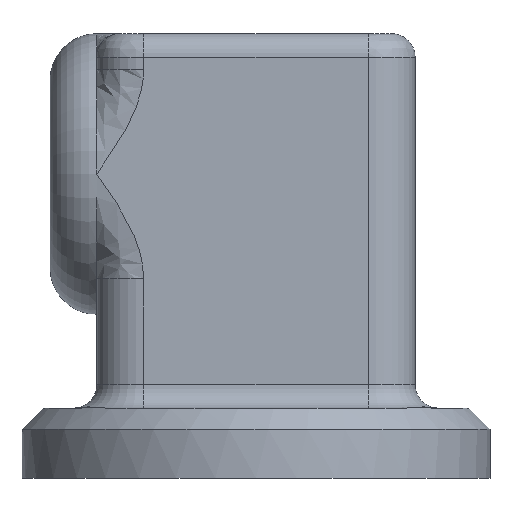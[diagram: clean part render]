
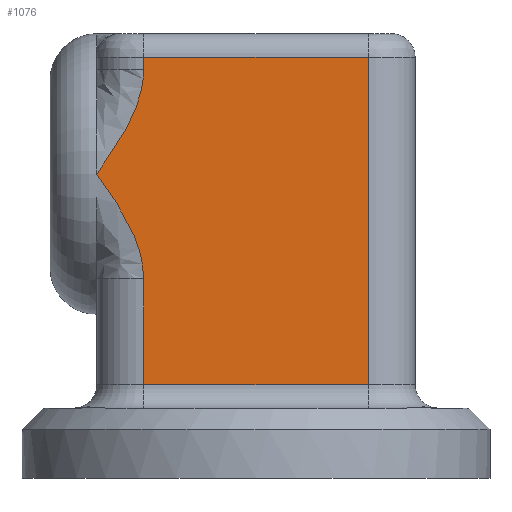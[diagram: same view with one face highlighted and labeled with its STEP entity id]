
A CAD part, front view. The second image highlights one B-rep face of the part: STEP entity #1076.
In plain terms, the highlighted planar face has unit normal (0, -1, 0).
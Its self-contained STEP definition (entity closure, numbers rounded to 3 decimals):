
#36=PLANE('',#1162);
#70=B_SPLINE_CURVE_WITH_KNOTS('',3,(#1790,#1791,#1792,#1793,#1794,#1795,
#1796,#1797),.UNSPECIFIED.,.F.,.F.,(4,2,1,1,4),(-0.001,0.,
0.198,0.297,0.495),.UNSPECIFIED.);
#71=B_SPLINE_CURVE_WITH_KNOTS('',3,(#1799,#1800,#1801,#1802,#1803,#1804,
#1805,#1806),.UNSPECIFIED.,.F.,.F.,(4,1,1,2,4),(1.195,1.393,
1.492,1.691,1.691),.UNSPECIFIED.);
#101=FACE_OUTER_BOUND('',#170,.T.);
#170=EDGE_LOOP('',(#779,#780,#781,#782,#783,#784,#785));
#241=LINE('',#1614,#325);
#251=LINE('',#1784,#335);
#252=LINE('',#1788,#336);
#253=LINE('',#1808,#337);
#254=LINE('',#1809,#338);
#325=VECTOR('',#1276,10.);
#335=VECTOR('',#1326,10.);
#336=VECTOR('',#1331,10.);
#337=VECTOR('',#1332,10.);
#338=VECTOR('',#1333,10.);
#474=VERTEX_POINT('',#1604);
#476=VERTEX_POINT('',#1610);
#494=VERTEX_POINT('',#1783);
#495=VERTEX_POINT('',#1787);
#496=VERTEX_POINT('',#1789);
#497=VERTEX_POINT('',#1798);
#498=VERTEX_POINT('',#1807);
#579=EDGE_CURVE('',#474,#476,#241,.T.);
#606=EDGE_CURVE('',#476,#494,#251,.T.);
#608=EDGE_CURVE('',#495,#474,#252,.T.);
#609=EDGE_CURVE('',#496,#495,#70,.T.);
#610=EDGE_CURVE('',#497,#496,#71,.T.);
#611=EDGE_CURVE('',#498,#497,#253,.T.);
#612=EDGE_CURVE('',#494,#498,#254,.T.);
#779=ORIENTED_EDGE('',*,*,#579,.F.);
#780=ORIENTED_EDGE('',*,*,#608,.F.);
#781=ORIENTED_EDGE('',*,*,#609,.F.);
#782=ORIENTED_EDGE('',*,*,#610,.F.);
#783=ORIENTED_EDGE('',*,*,#611,.F.);
#784=ORIENTED_EDGE('',*,*,#612,.F.);
#785=ORIENTED_EDGE('',*,*,#606,.F.);
#1076=ADVANCED_FACE('',(#101),#36,.T.);
#1162=AXIS2_PLACEMENT_3D('',#1786,#1329,#1330);
#1276=DIRECTION('',(1.,0.,0.));
#1326=DIRECTION('',(0.,0.,-1.));
#1329=DIRECTION('center_axis',(0.,-1.,0.));
#1330=DIRECTION('ref_axis',(1.,0.,0.));
#1331=DIRECTION('',(0.,0.,1.));
#1332=DIRECTION('',(0.,0.,1.));
#1333=DIRECTION('',(-1.,0.,0.));
#1604=CARTESIAN_POINT('',(-4.8,-6.,18.));
#1610=CARTESIAN_POINT('',(4.8,-6.,18.));
#1614=CARTESIAN_POINT('',(-1.,-6.,18.));
#1783=CARTESIAN_POINT('',(4.8,-6.,4.));
#1784=CARTESIAN_POINT('',(4.8,-6.,3.));
#1786=CARTESIAN_POINT('Origin',(-6.8,-6.,3.));
#1787=CARTESIAN_POINT('',(-4.8,-6.,17.472));
#1788=CARTESIAN_POINT('',(-4.8,-6.,3.));
#1789=CARTESIAN_POINT('',(-6.8,-6.,13.));
#1790=CARTESIAN_POINT('Ctrl Pts',(-6.8,-6.,13.));
#1791=CARTESIAN_POINT('Ctrl Pts',(-6.798,-6.,13.002));
#1792=CARTESIAN_POINT('Ctrl Pts',(-6.797,-6.,13.005));
#1793=CARTESIAN_POINT('Ctrl Pts',(-6.414,-6.,13.546));
#1794=CARTESIAN_POINT('Ctrl Pts',(-5.832,-6.,14.372));
#1795=CARTESIAN_POINT('Ctrl Pts',(-5.071,-6.,15.832));
#1796=CARTESIAN_POINT('Ctrl Pts',(-4.8,-6.,16.812));
#1797=CARTESIAN_POINT('Ctrl Pts',(-4.8,-6.,17.472));
#1798=CARTESIAN_POINT('',(-4.8,-6.,8.528));
#1799=CARTESIAN_POINT('Ctrl Pts',(-4.8,-6.,8.528));
#1800=CARTESIAN_POINT('Ctrl Pts',(-4.8,-6.,9.188));
#1801=CARTESIAN_POINT('Ctrl Pts',(-5.071,-6.,10.169));
#1802=CARTESIAN_POINT('Ctrl Pts',(-5.832,-6.,11.628));
#1803=CARTESIAN_POINT('Ctrl Pts',(-6.414,-6.,12.454));
#1804=CARTESIAN_POINT('Ctrl Pts',(-6.797,-6.,12.995));
#1805=CARTESIAN_POINT('Ctrl Pts',(-6.798,-6.,12.998));
#1806=CARTESIAN_POINT('Ctrl Pts',(-6.8,-6.,13.));
#1807=CARTESIAN_POINT('',(-4.8,-6.,4.));
#1808=CARTESIAN_POINT('',(-4.8,-6.,3.));
#1809=CARTESIAN_POINT('',(-3.4,-6.,4.));
